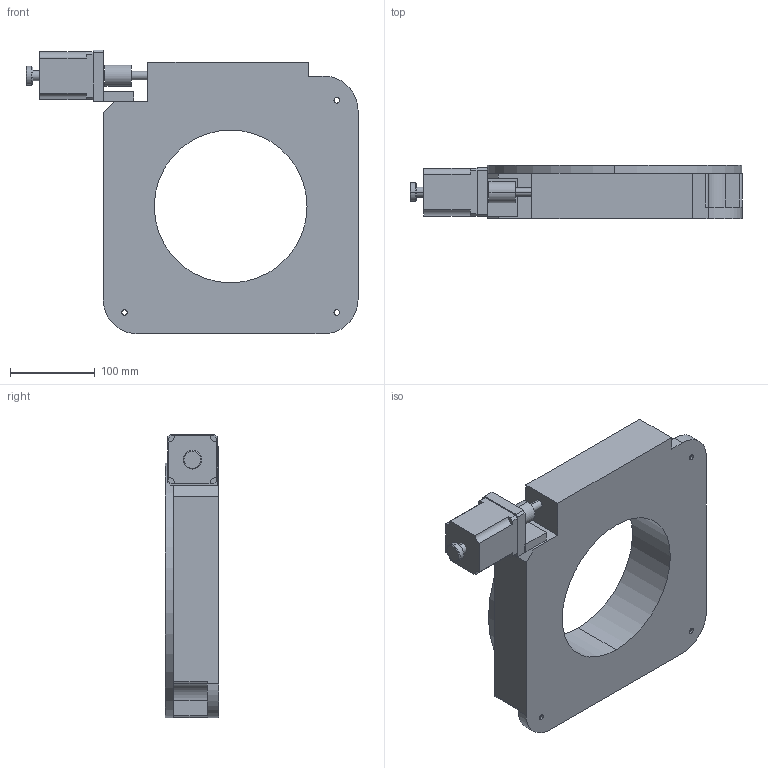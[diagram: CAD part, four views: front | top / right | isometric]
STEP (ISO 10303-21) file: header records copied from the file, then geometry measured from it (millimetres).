
FILE_DESCRIPTION (( 'STEP AP203' ), '1' );
FILE_NAME ('电动旋转台ZX110-300（标准）.STEP', '2015-11-13T07:33:39', ( 'lyeiki' ), ( '' ), 'SwSTEP 2.0', 'SolidWorks 2014', '' );
FILE_SCHEMA (( 'CONFIG_CONTROL_DESIGN' ));
Length unit declared in the file: millimetre
Products named in the file (1): 电动旋转台ZX110-300（标准）
Bounding box: 391 x 63 x 334 mm (x, y, z)
Volume: 4084311.5 mm3; surface area: 284845.3 mm2
Topology: 4 solids, 4 shells, 202 faces, 540 edges, 328 vertices
Faces by surface type: cylinder 90, plane 60, cone 52
Entity records: 6103 total; most frequent: DIRECTION 1118, CARTESIAN_POINT 1023, ORIENTED_EDGE 984, EDGE_CURVE 492, AXIS2_PLACEMENT_3D 423, VERTEX_POINT 328, VECTOR 272, LINE 272
